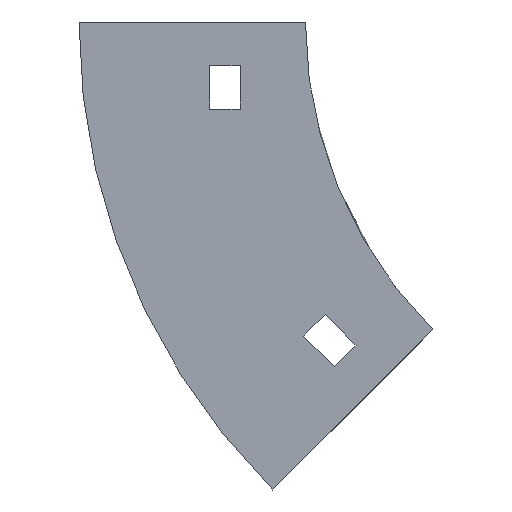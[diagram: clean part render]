
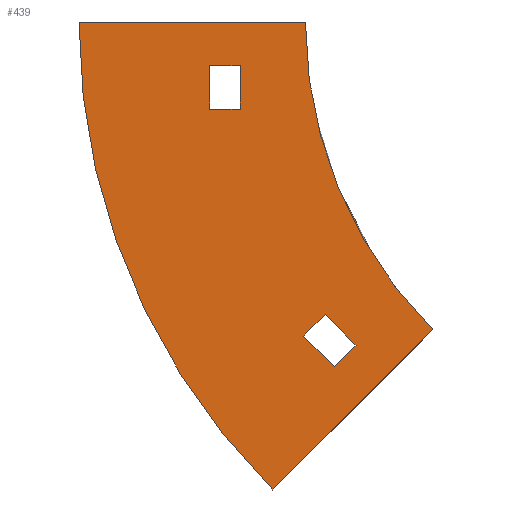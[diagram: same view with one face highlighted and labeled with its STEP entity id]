
A CAD part, left-side view. The second image highlights one B-rep face of the part: STEP entity #439.
In plain terms, the highlighted planar face has unit normal (-1, 0, 0).
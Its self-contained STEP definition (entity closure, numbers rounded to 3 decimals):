
#11 = ORIENTED_EDGE ( 'NONE', *, *, #995, .T. ) ;
#27 = FACE_BOUND ( 'NONE', #215, .T. ) ;
#40 = LINE ( 'NONE', #324, #55 ) ;
#55 = VECTOR ( 'NONE', #405, 1000. ) ;
#71 = CARTESIAN_POINT ( 'NONE',  ( -27., 22., -20. ) ) ;
#86 = AXIS2_PLACEMENT_3D ( 'NONE', #491, #849, #585 ) ;
#87 = ORIENTED_EDGE ( 'NONE', *, *, #1132, .T. ) ;
#119 = PLANE ( 'NONE',  #86 ) ;
#121 = DIRECTION ( 'NONE',  ( 0., -1., 0. ) ) ;
#133 = CARTESIAN_POINT ( 'NONE',  ( -27., -100., 0. ) ) ;
#144 = VECTOR ( 'NONE', #886, 1000. ) ;
#146 = VECTOR ( 'NONE', #1135, 1000. ) ;
#158 = VECTOR ( 'NONE', #255, 1000. ) ;
#175 = CARTESIAN_POINT ( 'NONE',  ( -27., -29.289, -70.711 ) ) ;
#188 = EDGE_CURVE ( 'NONE', #652, #690, #40, .T. ) ;
#202 = FACE_OUTER_BOUND ( 'NONE', #531, .T. ) ;
#215 = EDGE_LOOP ( 'NONE', ( #809, #298, #522, #257 ) ) ;
#226 = VERTEX_POINT ( 'NONE', #578 ) ;
#233 = VERTEX_POINT ( 'NONE', #914 ) ;
#248 = LINE ( 'NONE', #784, #269 ) ;
#255 = DIRECTION ( 'NONE',  ( 0., 0., 1. ) ) ;
#257 = ORIENTED_EDGE ( 'NONE', *, *, #188, .F. ) ;
#260 = LINE ( 'NONE', #71, #600 ) ;
#269 = VECTOR ( 'NONE', #607, 1000. ) ;
#271 = VECTOR ( 'NONE', #121, 1000. ) ;
#277 = DIRECTION ( 'NONE',  ( 0., 0., -1. ) ) ;
#285 = ORIENTED_EDGE ( 'NONE', *, *, #1111, .F. ) ;
#298 = ORIENTED_EDGE ( 'NONE', *, *, #512, .F. ) ;
#309 = VERTEX_POINT ( 'NONE', #915 ) ;
#311 = DIRECTION ( 'NONE',  ( 0., -0.707, -0.707 ) ) ;
#315 = VERTEX_POINT ( 'NONE', #799 ) ;
#324 = CARTESIAN_POINT ( 'NONE',  ( -27., 0.409, -72.125 ) ) ;
#334 = CARTESIAN_POINT ( 'NONE',  ( -27., 22., -20. ) ) ;
#350 = LINE ( 'NONE', #175, #146 ) ;
#351 = VECTOR ( 'NONE', #311, 1000. ) ;
#356 = VERTEX_POINT ( 'NONE', #557 ) ;
#358 = LINE ( 'NONE', #549, #447 ) ;
#382 = VERTEX_POINT ( 'NONE', #835 ) ;
#405 = DIRECTION ( 'NONE',  ( 0., 0.707, -0.707 ) ) ;
#412 = ORIENTED_EDGE ( 'NONE', *, *, #591, .T. ) ;
#420 = EDGE_CURVE ( 'NONE', #690, #382, #485, .T. ) ;
#439 = ADVANCED_FACE ( 'NONE', ( #664, #202, #27 ), #119, .T. ) ;
#447 = VECTOR ( 'NONE', #277, 1000. ) ;
#458 = VERTEX_POINT ( 'NONE', #1109 ) ;
#481 = EDGE_LOOP ( 'NONE', ( #11, #412, #629, #87 ) ) ;
#485 = LINE ( 'NONE', #507, #351 ) ;
#491 = CARTESIAN_POINT ( 'NONE',  ( -27., -100., 0. ) ) ;
#507 = CARTESIAN_POINT ( 'NONE',  ( -27., -6.662, -79.196 ) ) ;
#512 = EDGE_CURVE ( 'NONE', #382, #309, #248, .T. ) ;
#522 = ORIENTED_EDGE ( 'NONE', *, *, #420, .F. ) ;
#531 = EDGE_LOOP ( 'NONE', ( #1133, #980, #285, #848 ) ) ;
#534 = CARTESIAN_POINT ( 'NONE',  ( -27., 22., -10. ) ) ;
#546 = VERTEX_POINT ( 'NONE', #334 ) ;
#549 = CARTESIAN_POINT ( 'NONE',  ( -27., 15., -10. ) ) ;
#557 = CARTESIAN_POINT ( 'NONE',  ( -27., 15., -10. ) ) ;
#559 = EDGE_CURVE ( 'NONE', #226, #233, #350, .T. ) ;
#567 = AXIS2_PLACEMENT_3D ( 'NONE', #700, #807, #786 ) ;
#570 = EDGE_CURVE ( 'NONE', #309, #652, #804, .T. ) ;
#578 = CARTESIAN_POINT ( 'NONE',  ( -27., -29.289, -70.711 ) ) ;
#585 = DIRECTION ( 'NONE',  ( 0., 0., 1. ) ) ;
#591 = EDGE_CURVE ( 'NONE', #356, #947, #358, .T. ) ;
#596 = CARTESIAN_POINT ( 'NONE',  ( -27., 22., -10. ) ) ;
#600 = VECTOR ( 'NONE', #785, 1000. ) ;
#607 = DIRECTION ( 'NONE',  ( 0., -0.707, 0.707 ) ) ;
#608 = CARTESIAN_POINT ( 'NONE',  ( -27., 0.409, -72.125 ) ) ;
#629 = ORIENTED_EDGE ( 'NONE', *, *, #689, .T. ) ;
#652 = VERTEX_POINT ( 'NONE', #981 ) ;
#664 = FACE_BOUND ( 'NONE', #481, .T. ) ;
#689 = EDGE_CURVE ( 'NONE', #947, #546, #260, .T. ) ;
#690 = VERTEX_POINT ( 'NONE', #608 ) ;
#700 = CARTESIAN_POINT ( 'NONE',  ( -27., -100., 0. ) ) ;
#727 = DIRECTION ( 'NONE',  ( 0., 0.707, 0.707 ) ) ;
#756 = DIRECTION ( 'NONE',  ( -1., 0., 0. ) ) ;
#784 = CARTESIAN_POINT ( 'NONE',  ( -27., -6.662, -79.196 ) ) ;
#785 = DIRECTION ( 'NONE',  ( 0., 1., 0. ) ) ;
#786 = DIRECTION ( 'NONE',  ( 0., 0., 1. ) ) ;
#792 = VECTOR ( 'NONE', #727, 1000. ) ;
#799 = CARTESIAN_POINT ( 'NONE',  ( -27., 0., 0. ) ) ;
#801 = LINE ( 'NONE', #534, #158 ) ;
#804 = LINE ( 'NONE', #974, #792 ) ;
#807 = DIRECTION ( 'NONE',  ( 1., 0., 0. ) ) ;
#809 = ORIENTED_EDGE ( 'NONE', *, *, #570, .F. ) ;
#814 = CARTESIAN_POINT ( 'NONE',  ( -27., 52., 0. ) ) ;
#835 = CARTESIAN_POINT ( 'NONE',  ( -27., -6.662, -79.196 ) ) ;
#848 = ORIENTED_EDGE ( 'NONE', *, *, #559, .F. ) ;
#849 = DIRECTION ( 'NONE',  ( -1., 0., 0. ) ) ;
#852 = EDGE_CURVE ( 'NONE', #458, #315, #1073, .T. ) ;
#886 = DIRECTION ( 'NONE',  ( 0., -1., 0. ) ) ;
#914 = CARTESIAN_POINT ( 'NONE',  ( -27., 7.48, -107.48 ) ) ;
#915 = CARTESIAN_POINT ( 'NONE',  ( -27., -11.612, -74.246 ) ) ;
#923 = LINE ( 'NONE', #596, #271 ) ;
#933 = DIRECTION ( 'NONE',  ( 0., 0., 1. ) ) ;
#937 = AXIS2_PLACEMENT_3D ( 'NONE', #133, #756, #933 ) ;
#942 = VERTEX_POINT ( 'NONE', #1084 ) ;
#947 = VERTEX_POINT ( 'NONE', #969 ) ;
#968 = CIRCLE ( 'NONE', #937, 100. ) ;
#969 = CARTESIAN_POINT ( 'NONE',  ( -27., 15., -20. ) ) ;
#973 = EDGE_CURVE ( 'NONE', #315, #226, #968, .T. ) ;
#974 = CARTESIAN_POINT ( 'NONE',  ( -27., -11.612, -74.246 ) ) ;
#980 = ORIENTED_EDGE ( 'NONE', *, *, #852, .F. ) ;
#981 = CARTESIAN_POINT ( 'NONE',  ( -27., -4.541, -67.175 ) ) ;
#986 = CIRCLE ( 'NONE', #567, 152. ) ;
#995 = EDGE_CURVE ( 'NONE', #942, #356, #923, .T. ) ;
#1073 = LINE ( 'NONE', #814, #144 ) ;
#1084 = CARTESIAN_POINT ( 'NONE',  ( -27., 22., -10. ) ) ;
#1109 = CARTESIAN_POINT ( 'NONE',  ( -27., 52., 0. ) ) ;
#1111 = EDGE_CURVE ( 'NONE', #233, #458, #986, .T. ) ;
#1132 = EDGE_CURVE ( 'NONE', #546, #942, #801, .T. ) ;
#1133 = ORIENTED_EDGE ( 'NONE', *, *, #973, .F. ) ;
#1135 = DIRECTION ( 'NONE',  ( 0., 0.707, -0.707 ) ) ;
